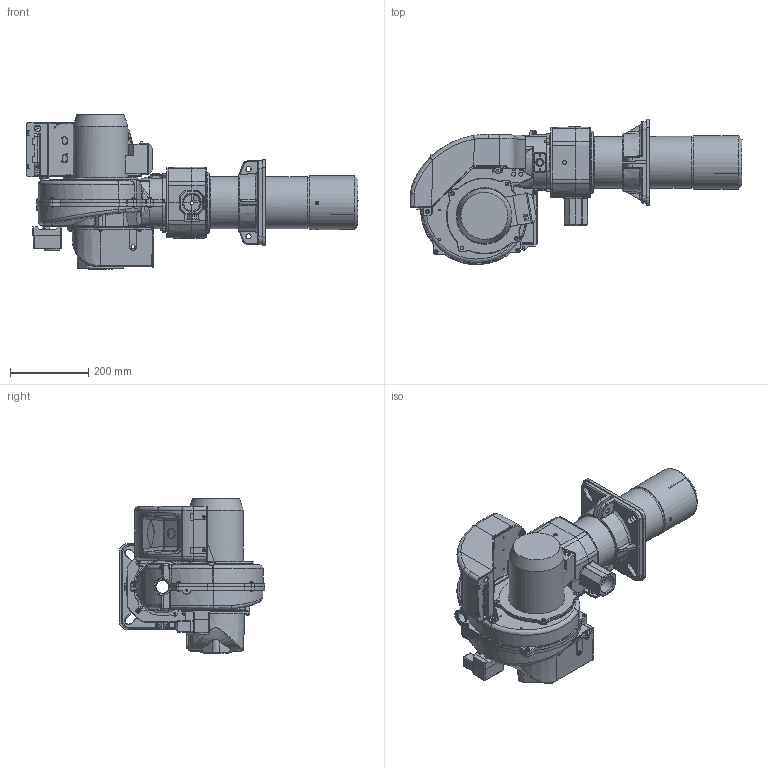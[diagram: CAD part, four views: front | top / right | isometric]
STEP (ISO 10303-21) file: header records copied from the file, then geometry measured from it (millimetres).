
FILE_DESCRIPTION (( 'STEP AP214' ), '1' );
FILE_NAME ('17320010-132591.STEP', '2017-09-13T13:14:44', ( '' ), ( '' ), 'SwSTEP 2.0', 'SolidWorks 2016', '' );
FILE_SCHEMA (( 'AUTOMOTIVE_DESIGN' ));
Length unit declared in the file: millimetre
Products named in the file (1): 17320010-132591
Bounding box: 849.19 x 371.27 x 396.06 mm (x, y, z)
Surface area: 1701186.2 mm2 (no closed solid volume)
Topology: 0 solids, 105 shells, 1724 faces, 6479 edges, 4599 vertices
Faces by surface type: plane 859, cylinder 521, bspline 278, cone 66
Full cylindrical faces by diameter (mm): 2.7 x5, 3.7 x8, 4.2 x3, 4.5 x5, 4.6 x5, 4.7 x3, 5 x7, 5.5 x4, 5.7 x7, 5.74 x1, 6 x3, 6.2 x1, 6.5 x2, 6.8 x2, 7 x6, 8.2 x1, 8.8 x2, 9 x4, 9.5 x12, 10.5 x4, 11 x3, 13 x4, 14 x2, 15 x1, 16 x1, 16.5 x1, 18 x1, 20 x1, 22 x1, 45 x1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
Entity records: 142421 total; most frequent: CARTESIAN_POINT 93977, ORIENTED_EDGE 9739, DIRECTION 7726, EDGE_CURVE 6231, VERTEX_POINT 4541, LINE 3550, VECTOR 3550, EDGE_LOOP 2434
